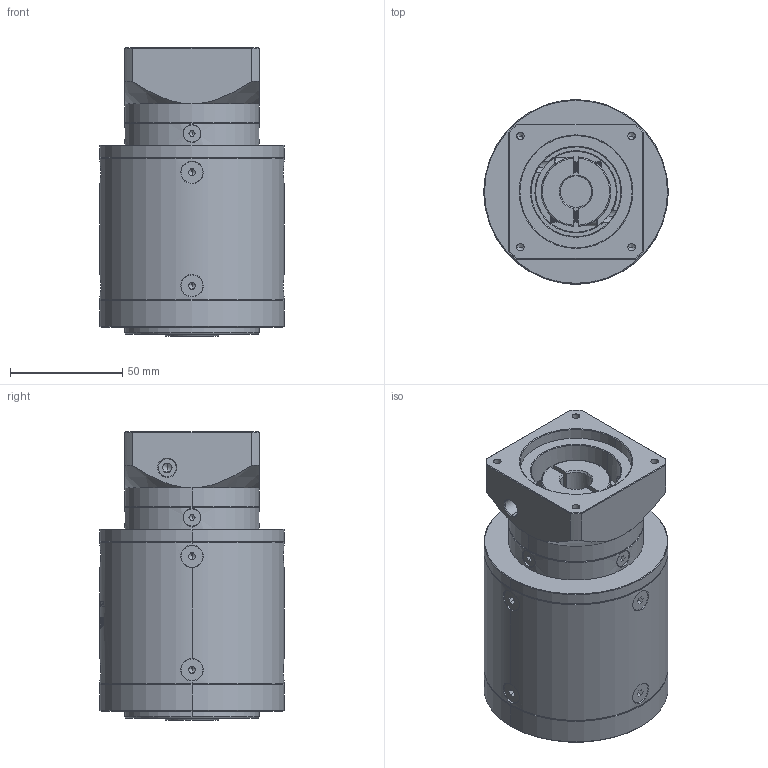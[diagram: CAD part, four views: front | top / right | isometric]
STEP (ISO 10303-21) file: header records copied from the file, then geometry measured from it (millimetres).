
FILE_DESCRIPTION (( 'STEP AP214' ), '1' );
FILE_NAME ('ZE80-K15-L3-14-50-70-M4.step', '2022-05-08T06:08:13', ( '' ), ( 'Microsoft' ), 'SwSTEP 2.0', 'SolidWorks 2016', '' );
FILE_SCHEMA (( 'AUTOMOTIVE_DESIGN' ));
Length unit declared in the file: millimetre
Products named in the file (1): ZE80-K15-L3-14-50-70-M4
Bounding box: 82 x 82 x 128.5 mm (x, y, z)
Volume: 529031 mm3; surface area: 67374.9 mm2
Topology: 18 solids, 18 shells, 1937 faces, 5076 edges, 3229 vertices
Faces by surface type: plane 928, cylinder 370, bspline 318, cone 307, torus 14
Entity records: 100670 total; most frequent: CARTESIAN_POINT 34891, ORIENTED_EDGE 10064, DIRECTION 8077, EDGE_CURVE 5032, VERTEX_POINT 3229, VECTOR 2765, LINE 2765, AXIS2_PLACEMENT_3D 2656
